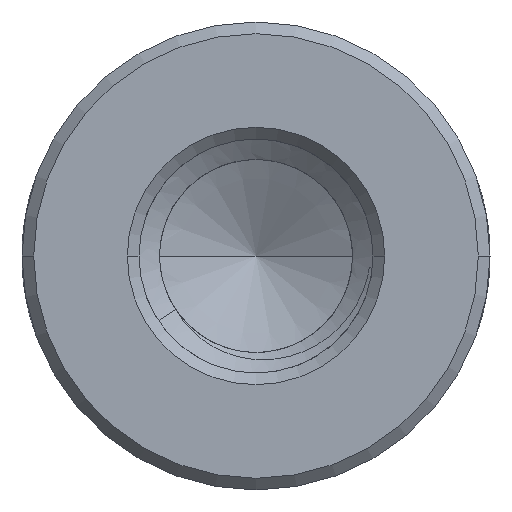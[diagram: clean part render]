
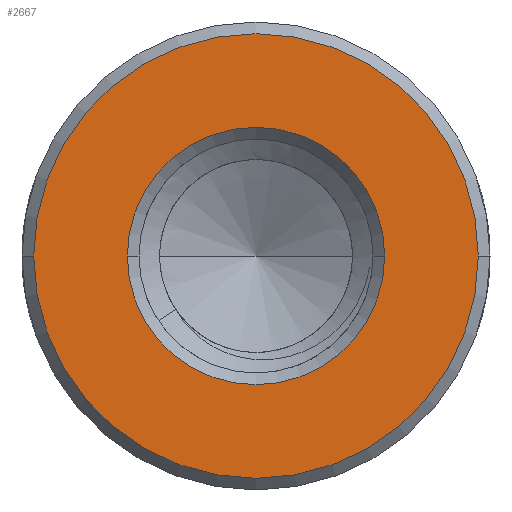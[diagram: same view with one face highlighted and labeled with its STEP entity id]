
A CAD part, front view. The second image highlights one B-rep face of the part: STEP entity #2667.
In plain terms, the highlighted planar face has unit normal (0, -1, 0).
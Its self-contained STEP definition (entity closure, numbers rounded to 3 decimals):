
#1=CARTESIAN_POINT('',(0.,-20.,0.));
#2=DIRECTION('',(0.,-1.,0.));
#3=DIRECTION('',(-1.,0.,0.));
#4=AXIS2_PLACEMENT_3D('',#1,#2,#3);
#6=CARTESIAN_POINT('',(0.,-20.,0.));
#7=DIRECTION('',(0.,-1.,0.));
#8=DIRECTION('',(1.,0.,0.));
#9=AXIS2_PLACEMENT_3D('',#6,#7,#8);
#11=CARTESIAN_POINT('',(0.,-20.,0.));
#12=DIRECTION('',(0.,1.,0.));
#13=DIRECTION('',(-1.,0.,0.));
#14=AXIS2_PLACEMENT_3D('',#11,#12,#13);
#16=CARTESIAN_POINT('',(0.,-20.,0.));
#17=DIRECTION('',(0.,1.,0.));
#18=DIRECTION('',(1.,0.,0.));
#19=AXIS2_PLACEMENT_3D('',#16,#17,#18);
#2505=CARTESIAN_POINT('',(-5.7,-20.,0.));
#2506=CARTESIAN_POINT('',(5.7,-20.,0.));
#2507=VERTEX_POINT('',#2505);
#2508=VERTEX_POINT('',#2506);
#2639=CARTESIAN_POINT('',(-3.3,-20.,0.));
#2640=CARTESIAN_POINT('',(3.3,-20.,0.));
#2641=VERTEX_POINT('',#2639);
#2642=VERTEX_POINT('',#2640);
#2650=CARTESIAN_POINT('',(0.,-20.,0.));
#2651=DIRECTION('',(0.,1.,0.));
#2652=DIRECTION('',(1.,0.,0.));
#2653=AXIS2_PLACEMENT_3D('',#2650,#2651,#2652);
#2654=PLANE('',#2653);
#2656=ORIENTED_EDGE('',*,*,#2655,.F.);
#2658=ORIENTED_EDGE('',*,*,#2657,.F.);
#2659=EDGE_LOOP('',(#2656,#2658));
#2660=FACE_OUTER_BOUND('',#2659,.F.);
#2662=ORIENTED_EDGE('',*,*,#2661,.F.);
#2664=ORIENTED_EDGE('',*,*,#2663,.F.);
#2665=EDGE_LOOP('',(#2662,#2664));
#2666=FACE_BOUND('',#2665,.F.);
#2667=ADVANCED_FACE('',(#2660,#2666),#2654,.F.);
#5=CIRCLE('',#4,5.7);
#10=CIRCLE('',#9,5.7);
#15=CIRCLE('',#14,3.3);
#20=CIRCLE('',#19,3.3);
#2655=EDGE_CURVE('',#2507,#2508,#5,.T.);
#2657=EDGE_CURVE('',#2508,#2507,#10,.T.);
#2661=EDGE_CURVE('',#2641,#2642,#15,.T.);
#2663=EDGE_CURVE('',#2642,#2641,#20,.T.);
